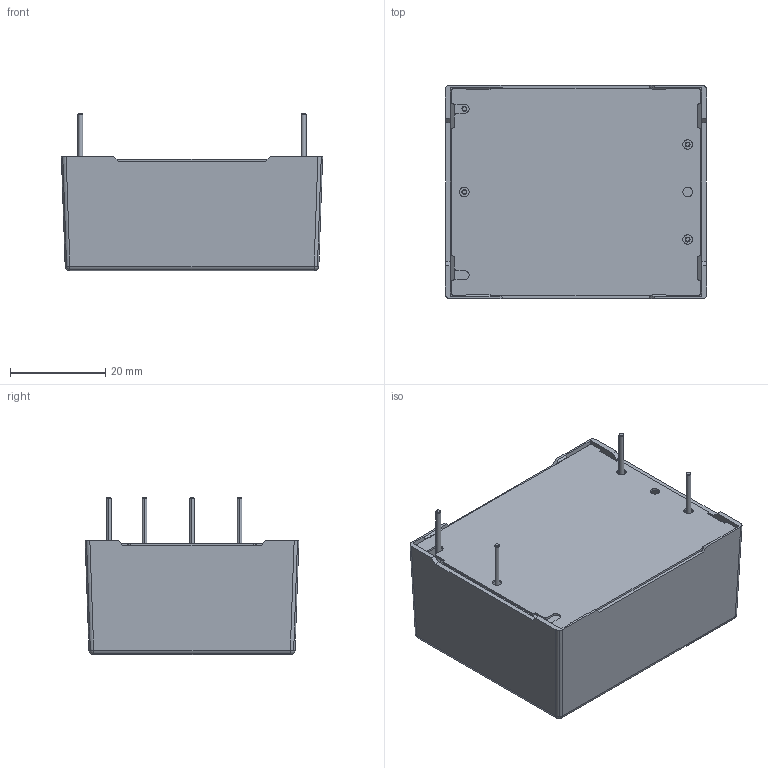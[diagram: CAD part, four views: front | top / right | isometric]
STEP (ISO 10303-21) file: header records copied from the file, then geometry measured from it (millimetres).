
FILE_DESCRIPTION((''),'2;1');
FILE_NAME('C:\Users\yaginuma\Documents\TRACO　STEPデータ送付関係\TMT151xx(ピン_シングル）\TMT151xx pin single Ass stp\TMT151ｘｘ (ピン、シングル） Ass.stp','2012-06-07T17:00:14',('yaginuma'),(''),'Autodesk Inventor 9','Autodesk Inventor 9','');
FILE_SCHEMA(('AUTOMOTIVE_DESIGN { 1 0 10303 214 1 1 1 1 }'));
Length unit declared in the file: millimetre
Products named in the file (4): TMT151ｘｘ (ピン、シングル） Ass; 上ケース3; 下ケース絶縁板; ピン
Assembly tree (6 placements, depth 2):
  TMT151ｘｘ (ピン、シングル） Ass
    上ケース3
    下ケース絶縁板
    ピン  x4
Bounding box: 55 x 45 x 33.1 mm (x, y, z)
Volume: 7382 mm3; surface area: 18258.5 mm2
Topology: 6 solids, 6 shells, 297 faces, 790 edges, 500 vertices
Faces by surface type: cylinder 139, plane 134, cone 16, bspline 4, sphere 4
Entity records: 8829 total; most frequent: CARTESIAN_POINT 1603, DIRECTION 1544, ORIENTED_EDGE 1480, EDGE_CURVE 740, AXIS2_PLACEMENT_3D 525, VECTOR 494, LINE 494, VERTEX_POINT 476
